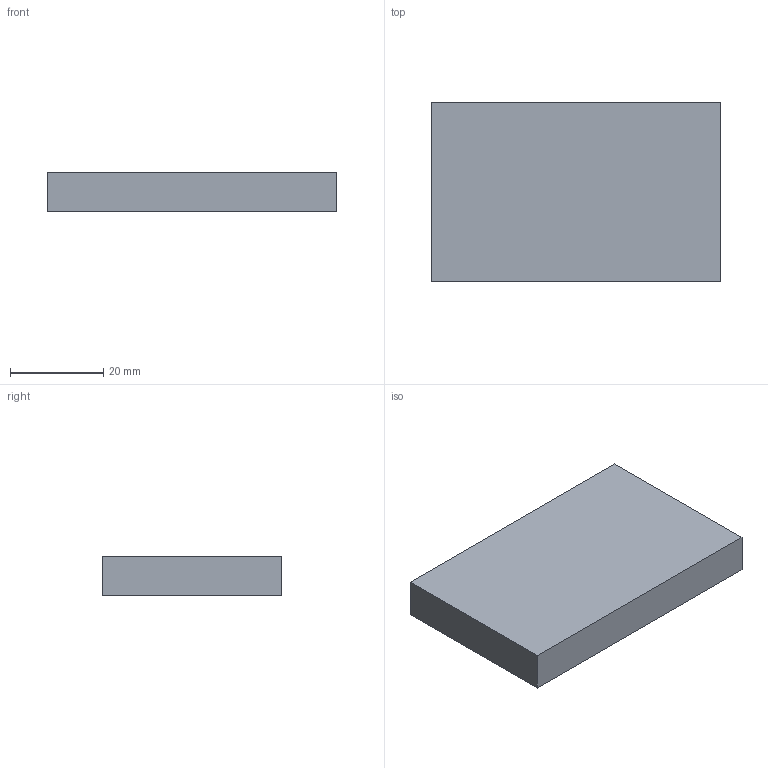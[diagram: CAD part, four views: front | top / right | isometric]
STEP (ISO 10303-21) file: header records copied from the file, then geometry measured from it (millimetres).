
FILE_DESCRIPTION(/* description */ (''),/* implementation_level */ '2;1');
FILE_NAME(/* name */ 'REF_Battery_MAX_62x38p5x8p5.step',/* time_stamp */ '2026-09-16T19:15:04-07:00',/* author */ (''),/* organization */ (''),/* preprocessor_version */ 'ST-DEVELOPER v20.1',/* originating_system */ 'Autodesk Translation Framework v15.8.0.0',/* authorisation */ '');
FILE_SCHEMA (('AUTOMOTIVE_DESIGN { 1 0 10303 214 3 1 1 }'));
Length unit declared in the file: centimetre
Products named in the file (1): 2026-09-16-19-15-04-606
Bounding box: 62 x 38.5 x 8.5 mm (x, y, z)
Volume: 20289.5 mm3; surface area: 6482.5 mm2
Topology: 1 solids, 1 shells, 6 faces, 12 edges, 8 vertices
Faces by surface type: plane 6
Entity records: 196 total; most frequent: CARTESIAN_POINT 27, DIRECTION 26, ORIENTED_EDGE 24, LINE 12, VECTOR 12, EDGE_CURVE 12, VERTEX_POINT 8, AXIS2_PLACEMENT_3D 7
